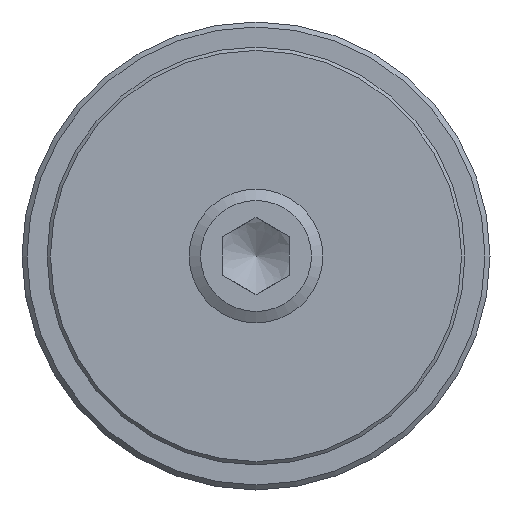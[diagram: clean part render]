
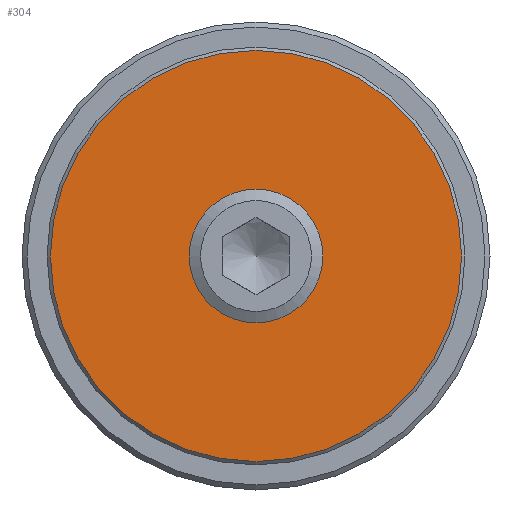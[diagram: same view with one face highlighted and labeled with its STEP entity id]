
A CAD part, front view. The second image highlights one B-rep face of the part: STEP entity #304.
In plain terms, the highlighted planar face has unit normal (0, -1, 0).
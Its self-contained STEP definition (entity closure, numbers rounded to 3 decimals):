
#32=FACE_BOUND('',#111,.T.);
#47=CIRCLE('',#340,12.3);
#48=CIRCLE('',#342,4.);
#76=FACE_OUTER_BOUND('',#110,.T.);
#110=EDGE_LOOP('',(#261));
#111=EDGE_LOOP('',(#262));
#171=VERTEX_POINT('',#522);
#172=VERTEX_POINT('',#525);
#204=EDGE_CURVE('',#171,#171,#47,.T.);
#205=EDGE_CURVE('',#172,#172,#48,.T.);
#261=ORIENTED_EDGE('',*,*,#204,.T.);
#262=ORIENTED_EDGE('',*,*,#205,.F.);
#283=PLANE('',#341);
#304=ADVANCED_FACE('',(#76,#32),#283,.T.);
#340=AXIS2_PLACEMENT_3D('',#523,#422,#423);
#341=AXIS2_PLACEMENT_3D('',#524,#424,#425);
#342=AXIS2_PLACEMENT_3D('',#526,#426,#427);
#422=DIRECTION('center_axis',(0.,-1.,0.));
#423=DIRECTION('ref_axis',(1.,0.,0.));
#424=DIRECTION('center_axis',(0.,-1.,0.));
#425=DIRECTION('ref_axis',(0.,0.,-1.));
#426=DIRECTION('center_axis',(0.,-1.,0.));
#427=DIRECTION('ref_axis',(1.,0.,0.));
#522=CARTESIAN_POINT('',(12.3,0.,0.));
#523=CARTESIAN_POINT('Origin',(0.,0.,
0.));
#524=CARTESIAN_POINT('Origin',(4.,0.,0.));
#525=CARTESIAN_POINT('',(4.,0.,0.));
#526=CARTESIAN_POINT('Origin',(0.,0.,0.));
